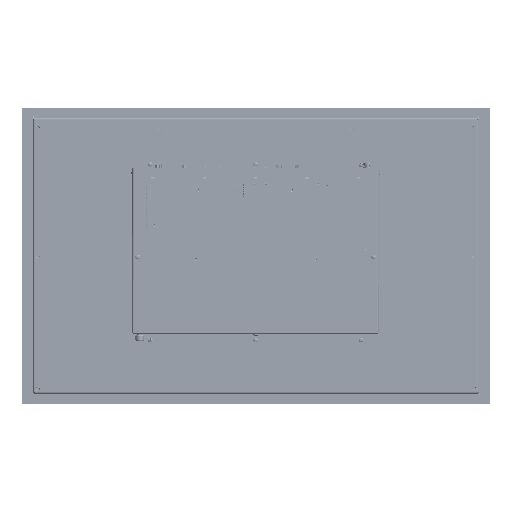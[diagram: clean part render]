
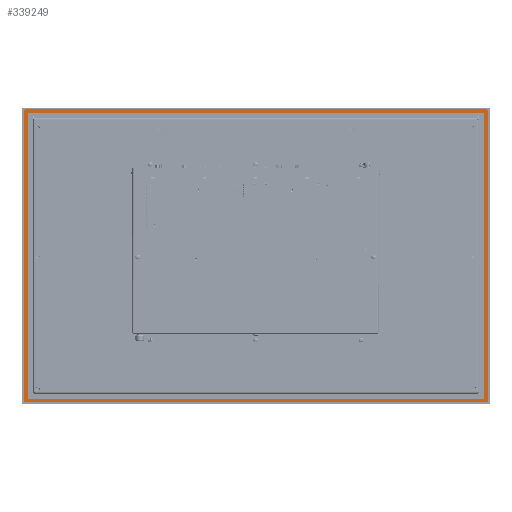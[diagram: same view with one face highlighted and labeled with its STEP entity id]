
A CAD part, front view. The second image highlights one B-rep face of the part: STEP entity #339249.
In plain terms, the highlighted planar face has unit normal (0, -1, 0).
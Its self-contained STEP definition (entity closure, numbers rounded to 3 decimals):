
#2057 = CARTESIAN_POINT ( 'NONE',  ( 282.25, 0., -176.5 ) ) ;
#9028 = CARTESIAN_POINT ( 'NONE',  ( 282.25, 0., 177.75 ) ) ;
#15931 = DIRECTION ( 'NONE',  ( 0., 0., 1. ) ) ;
#24947 = CARTESIAN_POINT ( 'NONE',  ( -286.25, 0., 182.25 ) ) ;
#28464 = AXIS2_PLACEMENT_3D ( 'NONE', #718864, #852900, #785949 ) ;
#36278 = CARTESIAN_POINT ( 'NONE',  ( 283.5, 0., -176.5 ) ) ;
#38095 = DIRECTION ( 'NONE',  ( 0., 0., -1. ) ) ;
#45235 = AXIS2_PLACEMENT_3D ( 'NONE', #2057, #468051, #69028 ) ;
#46773 = CARTESIAN_POINT ( 'NONE',  ( -283.5, 0., -176.5 ) ) ;
#58441 = DIRECTION ( 'NONE',  ( 0., -1., 0. ) ) ;
#69028 = DIRECTION ( 'NONE',  ( 0., 0., -1. ) ) ;
#71639 = VERTEX_POINT ( 'NONE', #305373 ) ;
#73159 = CARTESIAN_POINT ( 'NONE',  ( -282.25, 0., -177.75 ) ) ;
#75212 = VERTEX_POINT ( 'NONE', #371989 ) ;
#79706 = CARTESIAN_POINT ( 'NONE',  ( -283.5, 0., 176.5 ) ) ;
#89557 = VERTEX_POINT ( 'NONE', #647527 ) ;
#93927 = FACE_BOUND ( 'NONE', #610940, .T. ) ;
#129579 = CARTESIAN_POINT ( 'NONE',  ( -288., 0., 180.5 ) ) ;
#140976 = EDGE_CURVE ( 'NONE', #283145, #213740, #351101, .T. ) ;
#149154 = AXIS2_PLACEMENT_3D ( 'NONE', #410442, #818368, #352020 ) ;
#150365 = VERTEX_POINT ( 'NONE', #419130 ) ;
#151201 = LINE ( 'NONE', #680240, #275662 ) ;
#169439 = ORIENTED_EDGE ( 'NONE', *, *, #140976, .F. ) ;
#174354 = CARTESIAN_POINT ( 'NONE',  ( 288., 0., 180.5 ) ) ;
#180776 = DIRECTION ( 'NONE',  ( 0., 1., 0. ) ) ;
#186326 = ORIENTED_EDGE ( 'NONE', *, *, #781728, .F. ) ;
#190306 = ORIENTED_EDGE ( 'NONE', *, *, #769963, .F. ) ;
#193850 = CARTESIAN_POINT ( 'NONE',  ( -283.5, 0., 176.5 ) ) ;
#195800 = DIRECTION ( 'NONE',  ( 1., 0., 0. ) ) ;
#198901 = DIRECTION ( 'NONE',  ( 0., 1., 0. ) ) ;
#209780 = ORIENTED_EDGE ( 'NONE', *, *, #849041, .F. ) ;
#210057 = ORIENTED_EDGE ( 'NONE', *, *, #442435, .F. ) ;
#213740 = VERTEX_POINT ( 'NONE', #79706 ) ;
#224022 = VECTOR ( 'NONE', #338521, 1000. ) ;
#226043 = DIRECTION ( 'NONE',  ( 1., 0., 0. ) ) ;
#230447 = VERTEX_POINT ( 'NONE', #174354 ) ;
#236327 = CARTESIAN_POINT ( 'NONE',  ( 288., 0., 180.5 ) ) ;
#239171 = EDGE_LOOP ( 'NONE', ( #535020, #432583, #696150, #617447, #472211, #210057, #661416, #190306 ) ) ;
#242008 = CARTESIAN_POINT ( 'NONE',  ( -286.25, 0., -180.5 ) ) ;
#243778 = ORIENTED_EDGE ( 'NONE', *, *, #528356, .F. ) ;
#257328 = VECTOR ( 'NONE', #603378, 1000. ) ;
#265017 = CIRCLE ( 'NONE', #480747, 1.25 ) ;
#265059 = LINE ( 'NONE', #73159, #411345 ) ;
#265085 = DIRECTION ( 'NONE',  ( 1., 0., 0. ) ) ;
#275662 = VECTOR ( 'NONE', #15931, 1000. ) ;
#280447 = EDGE_CURVE ( 'NONE', #230447, #643722, #572021, .T. ) ;
#283145 = VERTEX_POINT ( 'NONE', #293026 ) ;
#284628 = AXIS2_PLACEMENT_3D ( 'NONE', #345688, #686576, #348589 ) ;
#290226 = DIRECTION ( 'NONE',  ( 0., -1., 0. ) ) ;
#290796 = EDGE_CURVE ( 'NONE', #321038, #553543, #847628, .T. ) ;
#293026 = CARTESIAN_POINT ( 'NONE',  ( -282.25, 0., 177.75 ) ) ;
#296943 = CARTESIAN_POINT ( 'NONE',  ( 283.5, 0., 176.5 ) ) ;
#297682 = CARTESIAN_POINT ( 'NONE',  ( 283.5, 0., -176.5 ) ) ;
#305373 = CARTESIAN_POINT ( 'NONE',  ( -286.25, 0., -182.25 ) ) ;
#309013 = DIRECTION ( 'NONE',  ( 0., 0., -1. ) ) ;
#321038 = VERTEX_POINT ( 'NONE', #619854 ) ;
#332837 = CARTESIAN_POINT ( 'NONE',  ( 286.25, 0., 180.5 ) ) ;
#338521 = DIRECTION ( 'NONE',  ( -1., 0., 0. ) ) ;
#339249 = ADVANCED_FACE ( 'NONE', ( #93927, #385605 ), #684318, .F. ) ;
#340344 = EDGE_CURVE ( 'NONE', #474906, #773361, #444449, .T. ) ;
#345688 = CARTESIAN_POINT ( 'NONE',  ( -286.25, 0., 180.5 ) ) ;
#346446 = ORIENTED_EDGE ( 'NONE', *, *, #340344, .F. ) ;
#348589 = DIRECTION ( 'NONE',  ( -1., 0., 0. ) ) ;
#348776 = CARTESIAN_POINT ( 'NONE',  ( -282.25, 0., 176.5 ) ) ;
#351101 = CIRCLE ( 'NONE', #838291, 1.25 ) ;
#352020 = DIRECTION ( 'NONE',  ( 1., 0., 0. ) ) ;
#358225 = VECTOR ( 'NONE', #721216, 1000. ) ;
#367805 = VERTEX_POINT ( 'NONE', #669340 ) ;
#370662 = ORIENTED_EDGE ( 'NONE', *, *, #772097, .F. ) ;
#371989 = CARTESIAN_POINT ( 'NONE',  ( 286.25, 0., -182.25 ) ) ;
#385605 = FACE_OUTER_BOUND ( 'NONE', #239171, .T. ) ;
#401167 = LINE ( 'NONE', #603649, #224022 ) ;
#402179 = VERTEX_POINT ( 'NONE', #856823 ) ;
#410442 = CARTESIAN_POINT ( 'NONE',  ( 0., 0., 0. ) ) ;
#411345 = VECTOR ( 'NONE', #195800, 1000. ) ;
#411952 = ORIENTED_EDGE ( 'NONE', *, *, #751678, .F. ) ;
#419130 = CARTESIAN_POINT ( 'NONE',  ( 282.25, 0., 177.75 ) ) ;
#421161 = EDGE_CURVE ( 'NONE', #643722, #75212, #721706, .T. ) ;
#432583 = ORIENTED_EDGE ( 'NONE', *, *, #421161, .F. ) ;
#442435 = EDGE_CURVE ( 'NONE', #550256, #321038, #471285, .T. ) ;
#444449 = LINE ( 'NONE', #297682, #820085 ) ;
#451701 = EDGE_CURVE ( 'NONE', #367805, #550256, #151201, .T. ) ;
#453595 = VERTEX_POINT ( 'NONE', #46773 ) ;
#460254 = CARTESIAN_POINT ( 'NONE',  ( 282.25, 0., 176.5 ) ) ;
#463658 = CARTESIAN_POINT ( 'NONE',  ( 288., 0., -180.5 ) ) ;
#468051 = DIRECTION ( 'NONE',  ( 0., -1., 0. ) ) ;
#471285 = CIRCLE ( 'NONE', #284628, 1.75 ) ;
#472211 = ORIENTED_EDGE ( 'NONE', *, *, #290796, .F. ) ;
#474906 = VERTEX_POINT ( 'NONE', #36278 ) ;
#478163 = EDGE_CURVE ( 'NONE', #213740, #453595, #598230, .T. ) ;
#480747 = AXIS2_PLACEMENT_3D ( 'NONE', #686637, #290226, #826379 ) ;
#494752 = AXIS2_PLACEMENT_3D ( 'NONE', #460254, #58441, #265085 ) ;
#520810 = CIRCLE ( 'NONE', #45235, 1.25 ) ;
#528356 = EDGE_CURVE ( 'NONE', #402179, #89557, #265059, .T. ) ;
#530902 = DIRECTION ( 'NONE',  ( 0., 0., 1. ) ) ;
#531910 = CIRCLE ( 'NONE', #494752, 1.25 ) ;
#535020 = ORIENTED_EDGE ( 'NONE', *, *, #555005, .F. ) ;
#540508 = EDGE_CURVE ( 'NONE', #553543, #230447, #777385, .T. ) ;
#550256 = VERTEX_POINT ( 'NONE', #129579 ) ;
#552634 = DIRECTION ( 'NONE',  ( 0., 0., 1. ) ) ;
#553543 = VERTEX_POINT ( 'NONE', #861124 ) ;
#555005 = EDGE_CURVE ( 'NONE', #75212, #71639, #401167, .T. ) ;
#572021 = LINE ( 'NONE', #236327, #728550 ) ;
#598230 = LINE ( 'NONE', #193850, #358225 ) ;
#603378 = DIRECTION ( 'NONE',  ( -1., 0., 0. ) ) ;
#603649 = CARTESIAN_POINT ( 'NONE',  ( 286.25, 0., -182.25 ) ) ;
#610940 = EDGE_LOOP ( 'NONE', ( #209780, #792470, #169439, #186326, #411952, #346446, #370662, #243778 ) ) ;
#617447 = ORIENTED_EDGE ( 'NONE', *, *, #540508, .F. ) ;
#619854 = CARTESIAN_POINT ( 'NONE',  ( -286.25, 0., 182.25 ) ) ;
#630260 = CIRCLE ( 'NONE', #702729, 1.75 ) ;
#643722 = VERTEX_POINT ( 'NONE', #463658 ) ;
#647527 = CARTESIAN_POINT ( 'NONE',  ( 282.25, 0., -177.75 ) ) ;
#649335 = VECTOR ( 'NONE', #226043, 1000. ) ;
#653618 = LINE ( 'NONE', #9028, #257328 ) ;
#661416 = ORIENTED_EDGE ( 'NONE', *, *, #451701, .F. ) ;
#669340 = CARTESIAN_POINT ( 'NONE',  ( -288., 0., -180.5 ) ) ;
#680240 = CARTESIAN_POINT ( 'NONE',  ( -288., 0., -180.5 ) ) ;
#684318 = PLANE ( 'NONE',  #149154 ) ;
#686576 = DIRECTION ( 'NONE',  ( 0., 1., 0. ) ) ;
#686637 = CARTESIAN_POINT ( 'NONE',  ( -282.25, 0., -176.5 ) ) ;
#696150 = ORIENTED_EDGE ( 'NONE', *, *, #280447, .F. ) ;
#702729 = AXIS2_PLACEMENT_3D ( 'NONE', #242008, #180776, #309013 ) ;
#715036 = AXIS2_PLACEMENT_3D ( 'NONE', #332837, #198901, #530902 ) ;
#718864 = CARTESIAN_POINT ( 'NONE',  ( 286.25, 0., -180.5 ) ) ;
#721216 = DIRECTION ( 'NONE',  ( 0., 0., -1. ) ) ;
#721706 = CIRCLE ( 'NONE', #28464, 1.75 ) ;
#728550 = VECTOR ( 'NONE', #38095, 1000. ) ;
#748041 = DIRECTION ( 'NONE',  ( 0., -1., 0. ) ) ;
#751678 = EDGE_CURVE ( 'NONE', #773361, #150365, #531910, .T. ) ;
#769963 = EDGE_CURVE ( 'NONE', #71639, #367805, #630260, .T. ) ;
#772097 = EDGE_CURVE ( 'NONE', #89557, #474906, #520810, .T. ) ;
#773361 = VERTEX_POINT ( 'NONE', #296943 ) ;
#777385 = CIRCLE ( 'NONE', #715036, 1.75 ) ;
#781728 = EDGE_CURVE ( 'NONE', #150365, #283145, #653618, .T. ) ;
#785949 = DIRECTION ( 'NONE',  ( 1., 0., 0. ) ) ;
#792470 = ORIENTED_EDGE ( 'NONE', *, *, #478163, .F. ) ;
#818368 = DIRECTION ( 'NONE',  ( 0., 1., 0. ) ) ;
#820085 = VECTOR ( 'NONE', #830979, 1000. ) ;
#826379 = DIRECTION ( 'NONE',  ( -1., 0., 0. ) ) ;
#830979 = DIRECTION ( 'NONE',  ( 0., 0., 1. ) ) ;
#838291 = AXIS2_PLACEMENT_3D ( 'NONE', #348776, #748041, #552634 ) ;
#847628 = LINE ( 'NONE', #24947, #649335 ) ;
#849041 = EDGE_CURVE ( 'NONE', #453595, #402179, #265017, .T. ) ;
#852900 = DIRECTION ( 'NONE',  ( 0., 1., 0. ) ) ;
#856823 = CARTESIAN_POINT ( 'NONE',  ( -282.25, 0., -177.75 ) ) ;
#861124 = CARTESIAN_POINT ( 'NONE',  ( 286.25, 0., 182.25 ) ) ;
